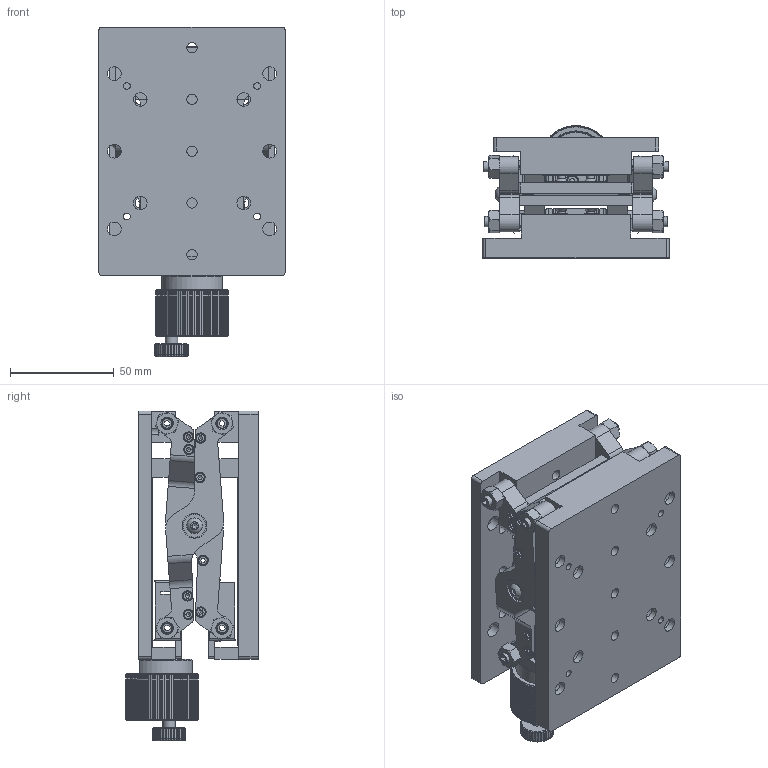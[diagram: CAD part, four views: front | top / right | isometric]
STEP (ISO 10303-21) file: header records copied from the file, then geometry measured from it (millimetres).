
FILE_DESCRIPTION (( 'STEP AP203' ), '1' );
FILE_NAME ('LJB-1.step', '2017-01-10T09:11:41', ( '¦K¬P' ), ( '' ), 'SwSTEP 2.0', 'SolidWorks 2012', '' );
FILE_SCHEMA (( 'CONFIG_CONTROL_DESIGN' ));
Length unit declared in the file: millimetre
Products named in the file (1): LJB-1
Bounding box: 90 x 64.03 x 159.4 mm (x, y, z)
Surface area: 103313.2 mm2 (no closed solid volume)
Topology: 0 solids, 71 shells, 1349 faces, 4288 edges, 2890 vertices
Faces by surface type: plane 683, cylinder 373, cone 290, sphere 2, torus 1
Full cylindrical faces by diameter (mm): 3.3 x8, 3.4 x4, 4.5 x4, 4.9 x2, 5 x42, 5.1 x2, 5.5 x1, 6 x3, 6.5 x3, 6.6 x10, 7.5 x4, 7.6 x2, 11 x12, 12 x2, 29.5 x1, 29.8 x1, 30 x2
Entity records: 47242 total; most frequent: CARTESIAN_POINT 10863, DIRECTION 7335, ORIENTED_EDGE 7138, EDGE_CURVE 4067, VERTEX_POINT 2832, AXIS2_PLACEMENT_3D 2664, LINE 2007, VECTOR 2007
